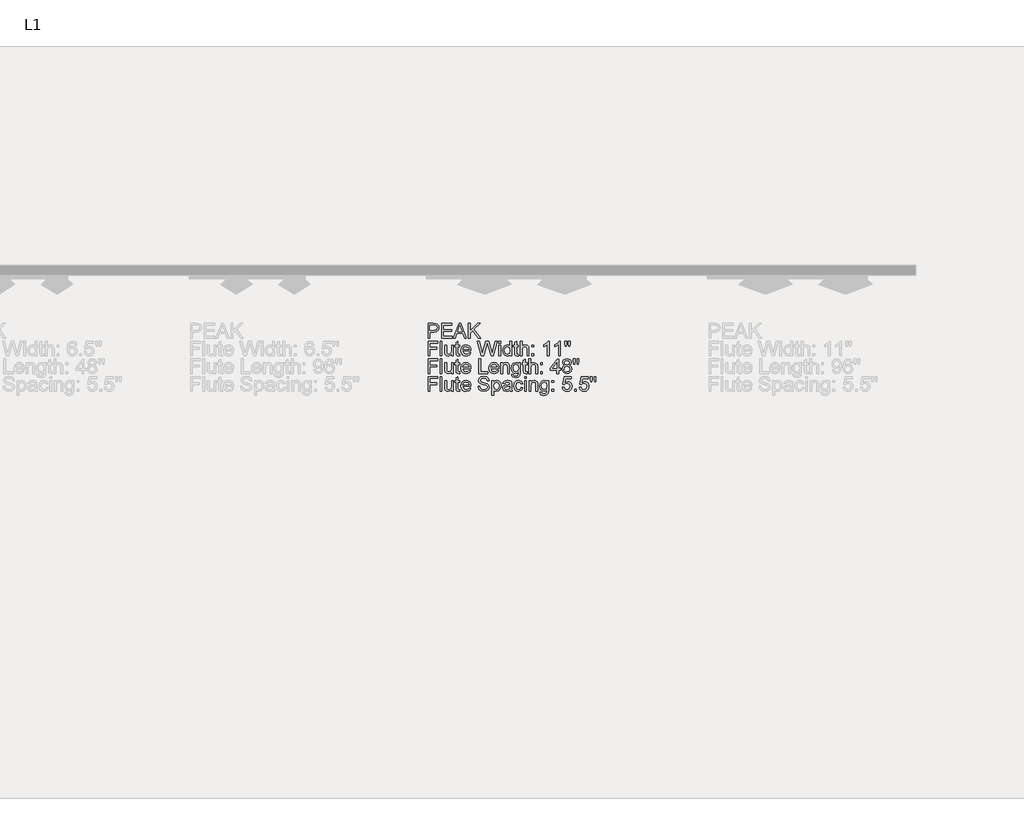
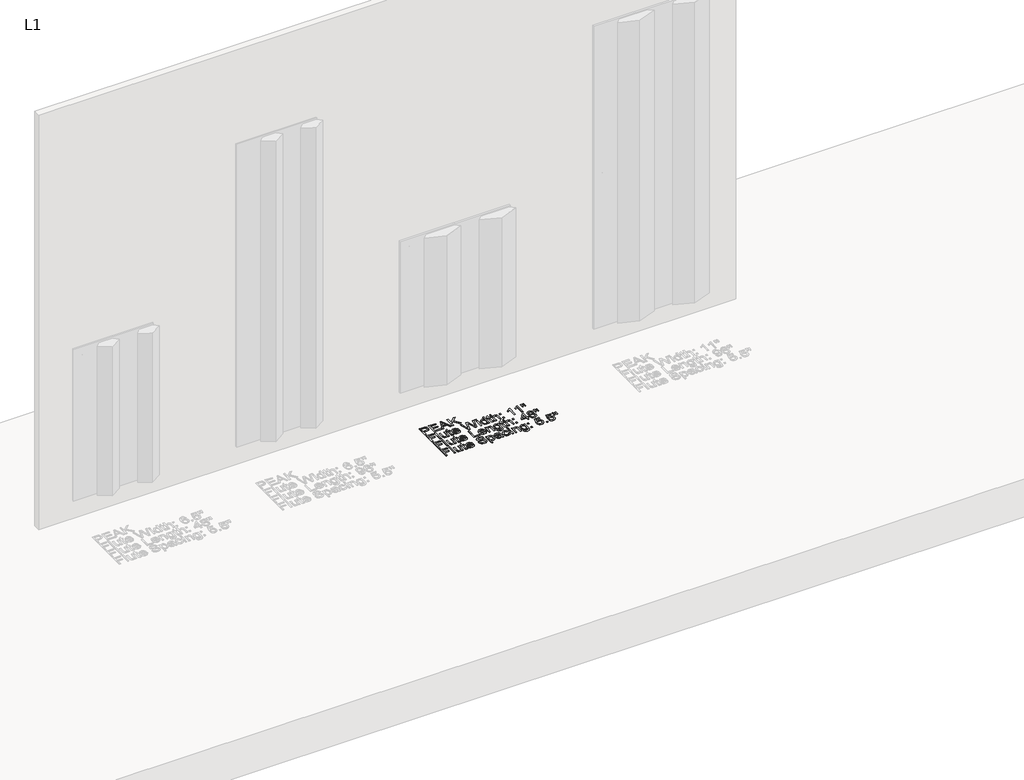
# One storey, part 10 of 17: 1 proxy.
"""IFC4 building model written with IfcOpenShell, lengths in millimetres."""

from ifc_helpers import new_model, si_unit, origin, origin_with_axes, place, context, project, spatial, polyline, outline, extrude, element, save

model = new_model("IFC4")

# Units and contexts
model_context = context("Model", 3, world=origin())
ifc_project = project(units=[si_unit("LENGTHUNIT", "METRE", prefix="MILLI")], contexts=[model_context])

# Site, building, storey
site = spatial("IfcSite", under=ifc_project)
building = spatial("IfcBuilding", under=site)
storey = spatial("IfcBuildingStorey", under=building, Name="L1", Elevation=0.0)

# Proxy
placement = place(None, origin())
element("IfcBuildingElementProxy", 1, Name="3\" Arial", ObjectType="3\" Arial", at=placement, inside=storey, context=model_context, shape_type="SweptSolid", body=[
    extrude(outline(polyline([(10073.1224056, -355.6), (10073.1224056, -279.0522917), (10101.4914049, -279.0522917), (10112.928709, -279.7811395), (10122.2261907, -283.3599691), (10128.2532014, -290.7605776), (10130.5331868, -301.198052), (10128.9937295, -310.2198797), (10124.3753573, -317.7372908), (10115.738978, -322.8111928), (10102.1454991, -324.5024935), (10082.6908691, -324.5024935), (10082.6908691, -355.6), (10073.1224056, -355.6)]), holes=[polyline([(10082.6908691, -314.9340299), (10102.7061513, -314.9340299), (10116.7972089, -311.4206097), (10120.9647233, -301.5344433), (10118.507198, -293.6105594), (10112.050354, -289.2748494), (10102.4818904, -288.6207552), (10082.6908691, -288.6207552), (10082.6908691, -314.9340299)])]), origin_with_axes(), (0.0, 0.0, 1.0), 3.175),
    extrude(outline(polyline([(10143.6898242, -355.6), (10143.6898242, -279.0522917), (10198.7084896, -279.0522917), (10198.7084896, -288.6207552), (10153.2582878, -288.6207552), (10153.2582878, -311.3458561), (10196.3163737, -311.3458561), (10196.3163737, -320.9143197), (10153.2582878, -320.9143197), (10153.2582878, -346.0315365), (10199.9045475, -346.0315365), (10199.9045475, -355.6), (10143.6898242, -355.6)])), origin_with_axes(), (0.0, 0.0, 1.0), 3.175),
    extrude(outline(polyline([(10205.3615619, -355.6), (10235.9171046, -279.0522917), (10244.0652494, -279.0522917), (10274.6021037, -355.6), (10264.4916764, -355.6), (10255.7455027, -331.6788411), (10224.1994745, -331.6788411), (10215.4533008, -355.6), (10205.3615619, -355.6)]), holes=[polyline([(10227.7128947, -322.1103776), (10252.2507709, -322.1103776), (10245.3360609, -303.2911534), (10239.9724886, -288.6207552), (10235.2069452, -301.6465737), (10227.7128947, -322.1103776)])]), origin_with_axes(), (0.0, 0.0, 1.0), 3.175),
    extrude(outline(polyline([(10284.8246615, -355.6), (10284.8246615, -279.0522917), (10294.393125, -279.0522917), (10294.393125, -316.5225444), (10333.6387762, -279.0522917), (10347.0196745, -279.0522917), (10314.0533274, -310.5235663), (10348.2157324, -355.6), (10336.5167907, -355.6), (10307.2694363, -316.9897545), (10294.393125, -329.2867253), (10294.393125, -355.6), (10284.8246615, -355.6)])), origin_with_axes(), (0.0, 0.0, 1.0), 3.175),
    extrude(outline(polyline([(10073.1224056, -448.5448112), (10073.1224056, -371.9971029), (10124.5528971, -371.9971029), (10124.5528971, -381.5655664), (10082.6908691, -381.5655664), (10082.6908691, -404.2906673), (10118.5726074, -404.2906673), (10118.5726074, -413.8591309), (10082.6908691, -413.8591309), (10082.6908691, -448.5448112), (10073.1224056, -448.5448112)])), origin_with_axes(), (0.0, 0.0, 1.0), 3.175),
    extrude(outline(polyline([(10136.5134766, -448.5448112), (10136.5134766, -371.9971029), (10146.0819401, -371.9971029), (10146.0819401, -448.5448112), (10136.5134766, -448.5448112)])), origin_with_axes(), (0.0, 0.0, 1.0), 3.175),
    extrude(outline(polyline([(10196.3163737, -448.5448112), (10196.3163737, -438.8829056), (10188.8223232, -447.0263783), (10179.0482872, -449.7408691), (10170.04982, -447.8346518), (10163.8452694, -443.05042), (10160.9952876, -436.0048912), (10160.4346354, -427.1092103), (10160.4346354, -392.3300879), (10170.003099, -392.3300879), (10170.003099, -422.6053046), (10170.5824395, -432.3606522), (10174.3668416, -438.0886484), (10181.4964683, -440.1724056), (10189.4857615, -438.0419274), (10194.7652361, -432.2391775), (10196.3163737, -421.5774423), (10196.3163737, -392.3300879), (10205.8848372, -392.3300879), (10205.8848372, -448.5448112), (10196.3163737, -448.5448112)])), origin_with_axes(), (0.0, 0.0, 1.0), 3.175),
    extrude(outline(polyline([(10239.3744596, -440.5648621), (10240.5705176, -448.8251373), (10233.4128583, -449.7408691), (10225.3955324, -448.1523547), (10221.3962137, -443.9848403), (10220.2375326, -433.1268768), (10220.2375326, -401.8985514), (10213.0611849, -401.8985514), (10213.0611849, -392.3300879), (10220.2375326, -392.3300879), (10220.2375326, -378.6688636), (10229.8059961, -373.0436536), (10229.8059961, -392.3300879), (10239.3744596, -392.3300879), (10239.3744596, -401.8985514), (10229.8059961, -401.8985514), (10229.8059961, -432.8465507), (10230.310583, -437.7802897), (10231.9458185, -439.5276556), (10235.2069452, -440.1724056), (10239.3744596, -440.5648621)])), origin_with_axes(), (0.0, 0.0, 1.0), 3.175),
    extrude(outline(polyline([(10288.3007049, -431.8), (10297.6822843, -432.9960579), (10288.908078, -445.3490939), (10272.5650675, -449.7408691), (10261.338008, -447.846332), (10252.6992927, -442.1627208), (10247.1908852, -433.0591313), (10245.3547494, -420.9046597), (10247.2095736, -408.3413792), (10252.7740463, -398.9457834), (10261.2959591, -393.0869683), (10272.0231038, -391.1340299), (10282.4161932, -393.0822962), (10290.7208533, -398.927095), (10296.1661875, -408.3040024), (10297.9812988, -420.8485945), (10297.9252336, -423.4275944), (10254.9232129, -423.4275944), (10260.4269483, -435.855384), (10272.7519516, -440.1724056), (10282.1335311, -438.1727462), (10288.3007049, -431.8)]), holes=[polyline([(10254.9232129, -413.8591309), (10288.4128353, -413.8591309), (10284.5817122, -405.1877108), (10271.985727, -400.7024935), (10260.2026874, -404.2813231), (10254.9232129, -413.8591309)])]), origin_with_axes(), (0.0, 0.0, 1.0), 3.175),
    extrude(outline(polyline([(10352.34587, -448.5448112), (10331.4709212, -371.9971029), (10341.3383993, -371.9971029), (10353.4484859, -422.3062901), (10357.186167, -437.8363549), (10361.1854857, -424.100377), (10376.3604709, -371.9971029), (10390.5823474, -371.9971029), (10401.6085065, -409.7663701), (10409.8127165, -437.8363549), (10413.4382671, -422.7548118), (10425.6417958, -371.9971029), (10435.5279622, -371.9971029), (10414.6717019, -448.5448112), (10404.4304557, -448.5448112), (10386.0597533, -389.4894503), (10383.4994417, -381.2478635), (10380.6214273, -391.1714068), (10363.8953045, -448.5448112), (10352.34587, -448.5448112)])), origin_with_axes(), (0.0, 0.0, 1.0), 3.175),
    extrude(outline(polyline([(10443.9003678, -381.5655664), (10443.9003678, -371.9971029), (10453.4688314, -371.9971029), (10453.4688314, -381.5655664), (10443.9003678, -381.5655664)])), origin_with_axes(), (0.0, 0.0, 1.0), 3.175),
    extrude(outline(polyline([(10443.9003678, -448.5448112), (10443.9003678, -392.3300879), (10453.4688314, -392.3300879), (10453.4688314, -448.5448112), (10443.9003678, -448.5448112)])), origin_with_axes(), (0.0, 0.0, 1.0), 3.175),
    extrude(outline(polyline([(10502.507207, -448.5448112), (10502.507207, -439.5183114), (10496.1765097, -447.1852297), (10487.4256639, -449.7408691), (10475.5772149, -446.0405649), (10467.2048093, -435.7152209), (10464.2333529, -420.4935148), (10466.9712043, -405.2624644), (10475.1754142, -394.778269), (10487.3882871, -391.1340299), (10496.2092144, -393.7410625), (10502.507207, -400.5156094), (10502.507207, -371.9971029), (10512.0756706, -371.9971029), (10512.0756706, -448.5448112), (10502.507207, -448.5448112)]), holes=[polyline([(10473.8018164, -420.4561379), (10478.118838, -435.2666992), (10488.304019, -440.1724056), (10498.3677252, -435.4909601), (10502.507207, -421.1849858), (10498.2929716, -405.6549209), (10487.9115625, -400.7024935), (10477.838512, -405.4586927), (10473.8018164, -420.4561379)])]), origin_with_axes(), (0.0, 0.0, 1.0), 3.175),
    extrude(outline(polyline([(10546.7613509, -440.5648621), (10547.9574089, -448.8251373), (10540.7997496, -449.7408691), (10532.7824237, -448.1523547), (10528.783105, -443.9848403), (10527.6244238, -433.1268768), (10527.6244238, -401.8985514), (10520.4480762, -401.8985514), (10520.4480762, -392.3300879), (10527.6244238, -392.3300879), (10527.6244238, -378.6688636), (10537.1928874, -373.0436536), (10537.1928874, -392.3300879), (10546.7613509, -392.3300879), (10546.7613509, -401.8985514), (10537.1928874, -401.8985514), (10537.1928874, -432.8465507), (10537.6974743, -437.7802897), (10539.3327098, -439.5276556), (10542.5938365, -440.1724056), (10546.7613509, -440.5648621)])), origin_with_axes(), (0.0, 0.0, 1.0), 3.175),
    extrude(outline(polyline([(10556.3298145, -448.5448112), (10556.3298145, -371.9971029), (10565.898278, -371.9971029), (10565.898278, -400.1418413), (10573.3596238, -393.3859828), (10582.5496472, -391.1340299), (10593.2954802, -393.5915553), (10599.8177337, -400.3847906), (10601.7800163, -412.9620874), (10601.7800163, -448.5448112), (10592.2115527, -448.5448112), (10592.2115527, -413.9525729), (10589.1653427, -403.860834), (10580.5312994, -400.7024935), (10572.6915133, -402.8329717), (10567.4587598, -408.607689), (10565.898278, -418.6807394), (10565.898278, -448.5448112), (10556.3298145, -448.5448112)])), origin_with_axes(), (0.0, 0.0, 1.0), 3.175),
    extrude(outline(polyline([(10617.3287695, -401.8985514), (10617.3287695, -392.3300879), (10626.8972331, -392.3300879), (10626.8972331, -401.8985514), (10617.3287695, -401.8985514)])), origin_with_axes(), (0.0, 0.0, 1.0), 3.175),
    extrude(outline(polyline([(10617.3287695, -448.5448112), (10617.3287695, -438.9763477), (10626.8972331, -438.9763477), (10626.8972331, -448.5448112), (10617.3287695, -448.5448112)])), origin_with_axes(), (0.0, 0.0, 1.0), 3.175),
    extrude(outline(polyline([(10708.2291732, -448.5448112), (10698.6607096, -448.5448112), (10698.6607096, -388.8914213), (10689.596833, -395.3482654), (10679.5237826, -400.1792181), (10679.5237826, -391.1340299), (10693.5494308, -382.1822838), (10702.0619994, -371.9971029), (10708.2291732, -371.9971029), (10708.2291732, -448.5448112)])), origin_with_axes(), (0.0, 0.0, 1.0), 3.175),
    extrude(outline(polyline([(10766.8360124, -448.5448112), (10757.2675488, -448.5448112), (10757.2675488, -388.8914213), (10748.2036722, -395.3482654), (10738.1306218, -400.1792181), (10738.1306218, -391.1340299), (10752.15627, -382.1822838), (10760.6688386, -371.9971029), (10766.8360124, -371.9971029), (10766.8360124, -448.5448112)])), origin_with_axes(), (0.0, 0.0, 1.0), 3.175),
    extrude(outline(polyline([(10791.897164, -399.5064355), (10789.5611133, -384.7239069), (10789.5611133, -371.9971029), (10799.1295768, -371.9971029), (10799.1295768, -384.7239069), (10797.0364754, -399.5064355), (10791.897164, -399.5064355)])), origin_with_axes(), (0.0, 0.0, 1.0), 3.175),
    extrude(outline(polyline([(10810.9780258, -399.5064355), (10808.6980404, -384.7239069), (10808.6980404, -371.9971029), (10818.2665039, -371.9971029), (10818.2665039, -384.7239069), (10816.0238953, -399.5064355), (10810.9780258, -399.5064355)])), origin_with_axes(), (0.0, 0.0, 1.0), 3.175),
    extrude(outline(polyline([(10073.1224056, -541.4896224), (10073.1224056, -464.9419141), (10124.5528971, -464.9419141), (10124.5528971, -474.5103776), (10082.6908691, -474.5103776), (10082.6908691, -497.2354785), (10118.5726074, -497.2354785), (10118.5726074, -506.8039421), (10082.6908691, -506.8039421), (10082.6908691, -541.4896224), (10073.1224056, -541.4896224)])), origin_with_axes(), (0.0, 0.0, 1.0), 3.175),
    extrude(outline(polyline([(10136.5134766, -541.4896224), (10136.5134766, -464.9419141), (10146.0819401, -464.9419141), (10146.0819401, -541.4896224), (10136.5134766, -541.4896224)])), origin_with_axes(), (0.0, 0.0, 1.0), 3.175),
    extrude(outline(polyline([(10196.3163737, -541.4896224), (10196.3163737, -531.8277168), (10188.8223232, -539.9711895), (10179.0482872, -542.6856803), (10170.04982, -540.779463), (10163.8452694, -535.9952312), (10160.9952876, -528.9497024), (10160.4346354, -520.0540215), (10160.4346354, -485.2748991), (10170.003099, -485.2748991), (10170.003099, -515.5501158), (10170.5824395, -525.3054634), (10174.3668416, -531.0334596), (10181.4964683, -533.1172168), (10189.4857615, -530.9867386), (10194.7652361, -525.1839887), (10196.3163737, -514.5222535), (10196.3163737, -485.2748991), (10205.8848372, -485.2748991), (10205.8848372, -541.4896224), (10196.3163737, -541.4896224)])), origin_with_axes(), (0.0, 0.0, 1.0), 3.175),
    extrude(outline(polyline([(10239.3744596, -533.5096733), (10240.5705176, -541.7699485), (10233.4128583, -542.6856803), (10225.3955324, -541.0971659), (10221.3962137, -536.9296515), (10220.2375326, -526.071688), (10220.2375326, -494.8433626), (10213.0611849, -494.8433626), (10213.0611849, -485.2748991), (10220.2375326, -485.2748991), (10220.2375326, -471.6136748), (10229.8059961, -465.9884648), (10229.8059961, -485.2748991), (10239.3744596, -485.2748991), (10239.3744596, -494.8433626), (10229.8059961, -494.8433626), (10229.8059961, -525.7913619), (10230.310583, -530.7251009), (10231.9458185, -532.4724668), (10235.2069452, -533.1172168), (10239.3744596, -533.5096733)])), origin_with_axes(), (0.0, 0.0, 1.0), 3.175),
    extrude(outline(polyline([(10288.3007049, -524.7448112), (10297.6822843, -525.9408691), (10288.908078, -538.2939051), (10272.5650675, -542.6856803), (10261.338008, -540.7911432), (10252.6992927, -535.107532), (10247.1908852, -526.0039425), (10245.3547494, -513.8494709), (10247.2095736, -501.2861904), (10252.7740463, -491.8905946), (10261.2959591, -486.0317795), (10272.0231038, -484.0788411), (10282.4161932, -486.0271074), (10290.7208533, -491.8719062), (10296.1661875, -501.2488136), (10297.9812988, -513.7934057), (10297.9252336, -516.3724056), (10254.9232129, -516.3724056), (10260.4269483, -528.8001952), (10272.7519516, -533.1172168), (10282.1335311, -531.1175574), (10288.3007049, -524.7448112)]), holes=[polyline([(10254.9232129, -506.8039421), (10288.4128353, -506.8039421), (10284.5817122, -498.132522), (10271.985727, -493.6473047), (10260.2026874, -497.2261343), (10254.9232129, -506.8039421)])]), origin_with_axes(), (0.0, 0.0, 1.0), 3.175),
    extrude(outline(polyline([(10338.6472689, -541.4896224), (10338.6472689, -464.9419141), (10348.2157324, -464.9419141), (10348.2157324, -531.9211589), (10386.4895866, -531.9211589), (10386.4895866, -541.4896224), (10338.6472689, -541.4896224)])), origin_with_axes(), (0.0, 0.0, 1.0), 3.175),
    extrude(outline(polyline([(10435.4158318, -524.7448112), (10444.7974113, -525.9408691), (10436.023205, -538.2939051), (10419.6801945, -542.6856803), (10408.453135, -540.7911432), (10399.8144196, -535.107532), (10394.3060121, -526.0039425), (10392.4698763, -513.8494709), (10394.3247005, -501.2861904), (10399.8891732, -491.8905946), (10408.4110861, -486.0317795), (10419.1382307, -484.0788411), (10429.5313202, -486.0271074), (10437.8359803, -491.8719062), (10443.2813144, -501.2488136), (10445.0964258, -513.7934057), (10445.0403606, -516.3724056), (10402.0383398, -516.3724056), (10407.5420752, -528.8001952), (10419.8670786, -533.1172168), (10429.248658, -531.1175574), (10435.4158318, -524.7448112)]), holes=[polyline([(10402.0383398, -506.8039421), (10435.5279622, -506.8039421), (10431.6968391, -498.132522), (10419.1008539, -493.6473047), (10407.3178144, -497.2261343), (10402.0383398, -506.8039421)])]), origin_with_axes(), (0.0, 0.0, 1.0), 3.175),
    extrude(outline(polyline([(10454.6648893, -541.4896224), (10454.6648893, -485.2748991), (10464.2333529, -485.2748991), (10464.2333529, -493.1240293), (10471.5498636, -486.3401382), (10481.5388162, -484.0788411), (10490.5746602, -485.9009607), (10496.741834, -490.6851924), (10499.6105042, -497.7213771), (10500.1150911, -506.9721377), (10500.1150911, -541.4896224), (10490.5466276, -541.4896224), (10490.5466276, -508.2616377), (10489.4440117, -499.79579), (10485.5474792, -495.319917), (10478.9785047, -493.6473047), (10468.5970955, -497.4036742), (10464.2333529, -511.6629274), (10464.2333529, -541.4896224), (10454.6648893, -541.4896224)])), origin_with_axes(), (0.0, 0.0, 1.0), 3.175),
    extrude(outline(polyline([(10510.8796126, -546.2738542), (10520.4480762, -547.4699121), (10523.5503515, -552.5157816), (10532.8384889, -554.6462598), (10542.6312133, -552.2354555), (10547.3033147, -545.4702527), (10547.9574089, -534.3132747), (10541.2202387, -539.6955355), (10533.0066846, -541.4896224), (10523.1415426, -539.4011931), (10515.785319, -533.1359052), (10511.2089958, -523.950554), (10509.6835547, -513.1019347), (10512.4214061, -498.272685), (10520.3452899, -487.7791454), (10532.5394744, -484.0788411), (10541.0754036, -486.1719425), (10547.9574089, -492.4512467), (10547.9574089, -485.2748991), (10557.5258724, -485.2748991), (10557.5258724, -533.8086878), (10554.9094957, -552.3943069), (10546.6211879, -561.0376944), (10532.6516049, -564.2147233), (10516.7384277, -559.7388502), (10512.2415302, -554.1346647), (10510.8796126, -546.2738542)]), holes=[polyline([(10519.2520182, -512.4478405), (10523.3354348, -527.2584017), (10533.5860251, -531.9211589), (10543.8179271, -527.2864343), (10547.9574089, -512.7281666), (10543.6964524, -498.4595691), (10533.4365179, -493.6473047), (10523.3915, -498.3848154), (10519.2520182, -512.4478405)])]), origin_with_axes(), (0.0, 0.0, 1.0), 3.175),
    extrude(outline(polyline([(10592.2115527, -533.5096733), (10593.4076107, -541.7699485), (10586.2499514, -542.6856803), (10578.2326255, -541.0971659), (10574.2333068, -536.9296515), (10573.0746257, -526.071688), (10573.0746257, -494.8433626), (10565.898278, -494.8433626), (10565.898278, -485.2748991), (10573.0746257, -485.2748991), (10573.0746257, -471.6136748), (10582.6430892, -465.9884648), (10582.6430892, -485.2748991), (10592.2115527, -485.2748991), (10592.2115527, -494.8433626), (10582.6430892, -494.8433626), (10582.6430892, -525.7913619), (10583.1476761, -530.7251009), (10584.7829116, -532.4724668), (10588.0440383, -533.1172168), (10592.2115527, -533.5096733)])), origin_with_axes(), (0.0, 0.0, 1.0), 3.175),
    extrude(outline(polyline([(10601.7800163, -541.4896224), (10601.7800163, -464.9419141), (10611.3484798, -464.9419141), (10611.3484798, -493.0866525), (10618.8098257, -486.330794), (10627.999849, -484.0788411), (10638.7456821, -486.5363664), (10645.2679355, -493.3296018), (10647.2302181, -505.9068986), (10647.2302181, -541.4896224), (10637.6617546, -541.4896224), (10637.6617546, -506.8973841), (10634.6155445, -496.8056452), (10625.9815012, -493.6473047), (10618.1417152, -495.7777829), (10612.9089617, -501.5525002), (10611.3484798, -511.6255506), (10611.3484798, -541.4896224), (10601.7800163, -541.4896224)])), origin_with_axes(), (0.0, 0.0, 1.0), 3.175),
    extrude(outline(polyline([(10662.7789714, -541.4896224), (10662.7789714, -531.9211589), (10672.3474349, -531.9211589), (10672.3474349, -541.4896224), (10662.7789714, -541.4896224)])), origin_with_axes(), (0.0, 0.0, 1.0), 3.175),
    extrude(outline(polyline([(10662.7789714, -494.8433626), (10662.7789714, -485.2748991), (10672.3474349, -485.2748991), (10672.3474349, -494.8433626), (10662.7789714, -494.8433626)])), origin_with_axes(), (0.0, 0.0, 1.0), 3.175),
    extrude(outline(polyline([(10748.8951432, -541.4896224), (10748.8951432, -523.5487533), (10714.2094629, -523.5487533), (10714.2094629, -513.9802897), (10751.2872591, -466.137972), (10758.4636068, -466.137972), (10758.4636068, -513.9802897), (10768.0320703, -513.9802897), (10768.0320703, -523.5487533), (10758.4636068, -523.5487533), (10758.4636068, -541.4896224), (10748.8951432, -541.4896224)]), holes=[polyline([(10748.8951432, -513.9802897), (10748.8951432, -484.4152324), (10725.9831583, -513.9802897), (10748.8951432, -513.9802897)])]), origin_with_axes(), (0.0, 0.0, 1.0), 3.175),
    extrude(outline(polyline([(10790.3460263, -499.3285799), (10781.6278852, -493.385667), (10778.7965918, -484.1349064), (10780.3383852, -476.6548721), (10784.9637656, -470.473682), (10792.1541295, -466.3248561), (10801.3908739, -464.9419141), (10810.6836834, -466.3575608), (10817.9674894, -470.6045009), (10822.6769676, -476.8838051), (10824.2467936, -484.396544), (10821.452877, -493.4136996), (10812.9776852, -499.3285799), (10823.1535219, -506.8319747), (10826.6389095, -519.2130432), (10824.910232, -528.3610176), (10819.7241995, -535.9204776), (10811.7162178, -540.9943797), (10801.5216927, -542.6856803), (10791.3271676, -540.9873715), (10783.3191859, -535.892445), (10778.1331534, -528.2605675), (10776.4044759, -518.9514055), (10780.0300266, -506.2806667), (10790.3460263, -499.3285799)]), holes=[polyline([(10788.3650553, -484.4152324), (10791.7570009, -491.9279714), (10801.6338231, -494.8433626), (10811.3144171, -491.9466598), (10814.6783301, -484.8450658), (10811.2022867, -477.4911783), (10801.5216927, -474.5103776), (10791.8130661, -477.4257688), (10788.3650553, -484.4152324)]), polyline([(10785.9729395, -518.6150142), (10787.5707981, -525.8193945), (10793.2240407, -531.2109995), (10801.5964463, -533.1172168), (10812.9963736, -529.1085538), (10817.070446, -518.9140287), (10812.8655548, -508.5232753), (10801.2787434, -504.4118262), (10790.0189792, -508.4672101), (10785.9729395, -518.6150142)])]), origin_with_axes(), (0.0, 0.0, 1.0), 3.175),
    extrude(outline(polyline([(10837.3473658, -492.4512467), (10835.0113151, -477.6687181), (10835.0113151, -464.9419141), (10844.5797787, -464.9419141), (10844.5797787, -477.6687181), (10842.4866773, -492.4512467), (10837.3473658, -492.4512467)])), origin_with_axes(), (0.0, 0.0, 1.0), 3.175),
    extrude(outline(polyline([(10856.4282276, -492.4512467), (10854.1482422, -477.6687181), (10854.1482422, -464.9419141), (10863.7167057, -464.9419141), (10863.7167057, -477.6687181), (10861.4740971, -492.4512467), (10856.4282276, -492.4512467)])), origin_with_axes(), (0.0, 0.0, 1.0), 3.175),
    extrude(outline(polyline([(10073.1224056, -634.4344336), (10073.1224056, -557.8867253), (10124.5528971, -557.8867253), (10124.5528971, -567.4551888), (10082.6908691, -567.4551888), (10082.6908691, -590.1802897), (10118.5726074, -590.1802897), (10118.5726074, -599.7487533), (10082.6908691, -599.7487533), (10082.6908691, -634.4344336), (10073.1224056, -634.4344336)])), origin_with_axes(), (0.0, 0.0, 1.0), 3.175),
    extrude(outline(polyline([(10136.5134766, -634.4344336), (10136.5134766, -557.8867253), (10146.0819401, -557.8867253), (10146.0819401, -634.4344336), (10136.5134766, -634.4344336)])), origin_with_axes(), (0.0, 0.0, 1.0), 3.175),
    extrude(outline(polyline([(10196.3163737, -634.4344336), (10196.3163737, -624.772528), (10188.8223232, -632.9160007), (10179.0482872, -635.6304915), (10170.04982, -633.7242742), (10163.8452694, -628.9400424), (10160.9952876, -621.8945136), (10160.4346354, -612.9988327), (10160.4346354, -578.2197103), (10170.003099, -578.2197103), (10170.003099, -608.494927), (10170.5824395, -618.2502746), (10174.3668416, -623.9782708), (10181.4964683, -626.062028), (10189.4857615, -623.9315498), (10194.7652361, -618.1287999), (10196.3163737, -607.4670647), (10196.3163737, -578.2197103), (10205.8848372, -578.2197103), (10205.8848372, -634.4344336), (10196.3163737, -634.4344336)])), origin_with_axes(), (0.0, 0.0, 1.0), 3.175),
    extrude(outline(polyline([(10239.3744596, -626.4544845), (10240.5705176, -634.7147597), (10233.4128583, -635.6304915), (10225.3955324, -634.0419771), (10221.3962137, -629.8744627), (10220.2375326, -619.0164992), (10220.2375326, -587.7881738), (10213.0611849, -587.7881738), (10213.0611849, -578.2197103), (10220.2375326, -578.2197103), (10220.2375326, -564.558486), (10229.8059961, -558.933276), (10229.8059961, -578.2197103), (10239.3744596, -578.2197103), (10239.3744596, -587.7881738), (10229.8059961, -587.7881738), (10229.8059961, -618.7361731), (10230.310583, -623.6699121), (10231.9458185, -625.417278), (10235.2069452, -626.062028), (10239.3744596, -626.4544845)])), origin_with_axes(), (0.0, 0.0, 1.0), 3.175),
    extrude(outline(polyline([(10288.3007049, -617.6896224), (10297.6822843, -618.8856803), (10288.908078, -631.2387163), (10272.5650675, -635.6304915), (10261.338008, -633.7359544), (10252.6992927, -628.0523432), (10247.1908852, -618.9487537), (10245.3547494, -606.7942821), (10247.2095736, -594.2310016), (10252.7740463, -584.8354058), (10261.2959591, -578.9765907), (10272.0231038, -577.0236523), (10282.4161932, -578.9719186), (10290.7208533, -584.8167174), (10296.1661875, -594.1936248), (10297.9812988, -606.7382169), (10297.9252336, -609.3172168), (10254.9232129, -609.3172168), (10260.4269483, -621.7450064), (10272.7519516, -626.062028), (10282.1335311, -624.0623686), (10288.3007049, -617.6896224)]), holes=[polyline([(10254.9232129, -599.7487533), (10288.4128353, -599.7487533), (10284.5817122, -591.0773332), (10271.985727, -586.5921159), (10260.2026874, -590.1709455), (10254.9232129, -599.7487533)])]), origin_with_axes(), (0.0, 0.0, 1.0), 3.175),
    extrude(outline(polyline([(10335.0590951, -608.1211589), (10344.6275586, -608.1211589), (10347.7111455, -617.6989666), (10355.2425728, -623.7540099), (10366.7172537, -626.062028), (10376.7155506, -624.3146621), (10383.1723946, -619.5117419), (10385.2935286, -613.0922747), (10383.7050142, -607.1213292), (10377.2014491, -602.7762749), (10363.2692429, -599.1226917), (10348.2717976, -594.4038693), (10340.1329971, -587.2835869), (10337.4512109, -577.7711886), (10340.7684029, -566.9412577), (10350.4583411, -559.2976999), (10364.6428407, -556.6906673), (10379.7804491, -559.4191745), (10389.872188, -567.4365004), (10393.6659342, -579.4157682), (10384.0974707, -579.4157682), (10378.6778332, -569.585667), (10365.0166088, -566.2591309), (10351.3180077, -569.5482902), (10347.0196745, -577.4908625), (10350.0658846, -584.1252464), (10365.6893914, -589.4701303), (10382.6210867, -594.2730505), (10391.8811915, -602.0287387), (10394.8619922, -612.8493254), (10391.4326698, -624.2959737), (10381.5651918, -632.6496909), (10367.0910218, -635.6304915), (10350.0004751, -632.4160858), (10339.1892326, -622.7354918), (10335.0590951, -608.1211589)])), origin_with_axes(), (0.0, 0.0, 1.0), 3.175),
    extrude(outline(polyline([(10408.0186296, -655.9634766), (10408.0186296, -578.2197103), (10417.5870931, -578.2197103), (10417.5870931, -587.6012898), (10424.2027886, -579.6680617), (10433.1358464, -577.0236523), (10445.2646214, -580.7239566), (10453.1885053, -591.1520868), (10455.8609473, -605.8972386), (10452.8427698, -621.3992709), (10444.0779077, -631.9582199), (10431.9771652, -635.6304915), (10423.6514806, -633.1729662), (10417.5870931, -626.9590715), (10417.5870931, -655.9634766), (10408.0186296, -655.9634766)]), holes=[polyline([(10417.5870931, -606.7755937), (10421.7265749, -621.3525498), (10431.7715928, -626.062028), (10442.0221831, -621.1843542), (10446.2924837, -606.0654343), (10442.1249693, -591.4511013), (10432.1640493, -586.5921159), (10422.006901, -591.75946), (10417.5870931, -606.7755937)])]), origin_with_axes(), (0.0, 0.0, 1.0), 3.175),
    extrude(outline(polyline([(10502.507207, -627.2580859), (10493.2284138, -633.7429626), (10482.9778234, -635.6304915), (10469.0829941, -631.089209), (10464.2333529, -619.4837093), (10466.0648166, -611.9149051), (10470.877081, -606.420514), (10477.5768743, -603.2808619), (10485.8558379, -601.8418547), (10502.4511418, -598.5526953), (10502.507207, -596.4222171), (10499.8721419, -589.3579999), (10489.2945044, -586.5921159), (10479.6139105, -588.4329238), (10474.9978744, -594.9645215), (10465.4294108, -593.7684635), (10469.5688926, -584.4242609), (10477.9039214, -578.9485581), (10490.5279392, -577.0236523), (10502.1240947, -578.7242972), (10508.6743808, -582.9945979), (10511.6084604, -589.4888187), (10512.0756706, -597.8612243), (10512.0756706, -609.7657385), (10512.5615691, -626.3890751), (10514.4677865, -634.4344336), (10504.8993229, -634.4344336), (10502.507207, -627.2580859)]), holes=[polyline([(10502.507207, -608.1211589), (10487.0705842, -611.0552385), (10478.8383417, -612.6063761), (10475.1100048, -615.1293109), (10473.8018164, -618.8109267), (10476.6517982, -623.987615), (10485.0148596, -626.062028), (10494.6954536, -623.7726983), (10500.937381, -618.2315862), (10502.4511418, -610.8309776), (10502.507207, -608.1211589)])]), origin_with_axes(), (0.0, 0.0, 1.0), 3.175),
    extrude(outline(polyline([(10561.1140462, -614.1014486), (10570.6825098, -615.2975065), (10563.0015752, -630.2388866), (10547.82659, -635.6304915), (10537.6484173, -633.7499707), (10529.6894926, -628.1084084), (10524.5525172, -618.9534258), (10522.8401921, -606.5326444), (10525.7649275, -590.6381556), (10534.6792969, -580.4249421), (10547.6957712, -577.0236523), (10562.2446948, -581.6957537), (10569.4864518, -594.9645215), (10559.9179883, -596.1605794), (10555.479492, -588.993576), (10547.7705248, -586.5921159), (10536.6789562, -591.3202824), (10532.4086556, -606.2710067), (10536.5855142, -621.361894), (10547.5088871, -626.062028), (10556.5260427, -623.1279484), (10561.1140462, -614.1014486)])), origin_with_axes(), (0.0, 0.0, 1.0), 3.175),
    extrude(outline(polyline([(10579.0549154, -567.4551888), (10579.0549154, -557.8867253), (10588.6233789, -557.8867253), (10588.6233789, -567.4551888), (10579.0549154, -567.4551888)])), origin_with_axes(), (0.0, 0.0, 1.0), 3.175),
    extrude(outline(polyline([(10579.0549154, -634.4344336), (10579.0549154, -578.2197103), (10588.6233789, -578.2197103), (10588.6233789, -634.4344336), (10579.0549154, -634.4344336)])), origin_with_axes(), (0.0, 0.0, 1.0), 3.175),
    extrude(outline(polyline([(10602.9760742, -634.4344336), (10602.9760742, -578.2197103), (10612.5445378, -578.2197103), (10612.5445378, -586.0688405), (10619.8610485, -579.2849494), (10629.8500011, -577.0236523), (10638.8858451, -578.8457719), (10645.0530189, -583.6300036), (10647.9216891, -590.6661883), (10648.426276, -599.9169489), (10648.426276, -634.4344336), (10638.8578125, -634.4344336), (10638.8578125, -601.2064489), (10637.7551966, -592.7406012), (10633.8586641, -588.2647282), (10627.2896896, -586.5921159), (10616.9082804, -590.3484854), (10612.5445378, -604.6077386), (10612.5445378, -634.4344336), (10602.9760742, -634.4344336)])), origin_with_axes(), (0.0, 0.0, 1.0), 3.175),
    extrude(outline(polyline([(10659.1907975, -639.2186654), (10668.7592611, -640.4147233), (10671.8615364, -645.4605928), (10681.1496738, -647.591071), (10690.9423982, -645.1802667), (10695.6144996, -638.4150639), (10696.2685938, -627.2580859), (10689.5314236, -632.6403467), (10681.3178695, -634.4344336), (10671.4527275, -632.3460043), (10664.0965039, -626.0807164), (10659.5201807, -616.8953652), (10657.9947396, -606.0467459), (10660.732591, -591.2174962), (10668.6564748, -580.7239566), (10680.8506593, -577.0236523), (10689.3865885, -579.1167537), (10696.2685938, -585.3960579), (10696.2685938, -578.2197103), (10705.8370573, -578.2197103), (10705.8370573, -626.753499), (10703.2206805, -645.3391181), (10694.9323728, -653.9825056), (10680.9627898, -657.1595345), (10665.0496126, -652.6836614), (10660.5527151, -647.0794759), (10659.1907975, -639.2186654)]), holes=[polyline([(10667.5632031, -605.3926517), (10671.6466197, -620.2032129), (10681.89721, -624.8659701), (10692.129112, -620.2312455), (10696.2685938, -605.6729778), (10692.0076373, -591.4043803), (10681.7477028, -586.5921159), (10671.7026849, -591.3296266), (10667.5632031, -605.3926517)])]), origin_with_axes(), (0.0, 0.0, 1.0), 3.175),
    extrude(outline(polyline([(10722.5818685, -587.7881738), (10722.5818685, -578.2197103), (10732.150332, -578.2197103), (10732.150332, -587.7881738), (10722.5818685, -587.7881738)])), origin_with_axes(), (0.0, 0.0, 1.0), 3.175),
    extrude(outline(polyline([(10722.5818685, -634.4344336), (10722.5818685, -624.8659701), (10732.150332, -624.8659701), (10732.150332, -634.4344336), (10722.5818685, -634.4344336)])), origin_with_axes(), (0.0, 0.0, 1.0), 3.175),
    extrude(outline(polyline([(10777.6005339, -614.1014486), (10787.1689974, -612.9053906), (10791.990606, -622.7635245), (10801.9889028, -626.062028), (10813.9868591, -621.4740245), (10818.2665039, -609.2985284), (10814.257841, -597.9359779), (10802.1384101, -593.7684635), (10793.7379719, -595.4317316), (10788.3650553, -599.7487533), (10778.7965918, -598.5526953), (10787.1689974, -559.0827832), (10824.2467936, -559.0827832), (10824.2467936, -568.6512467), (10794.9059972, -568.6512467), (10790.794548, -589.731768), (10804.7921637, -584.2), (10813.7345656, -585.9146612), (10821.1632067, -591.0586448), (10826.1670273, -598.8984308), (10827.8349675, -608.7004994), (10826.3352229, -618.268963), (10821.8359893, -626.4544845), (10813.2206345, -633.3364898), (10801.951526, -635.6304915), (10792.5535942, -634.1564436), (10785.0665518, -629.7342996), (10779.9342485, -622.8779909), (10777.6005339, -614.1014486)])), origin_with_axes(), (0.0, 0.0, 1.0), 3.175),
    extrude(outline(polyline([(10840.9916048, -634.4344336), (10840.9916048, -624.8659701), (10850.5600684, -624.8659701), (10850.5600684, -634.4344336), (10840.9916048, -634.4344336)])), origin_with_axes(), (0.0, 0.0, 1.0), 3.175),
    extrude(outline(polyline([(10866.1088216, -614.1014486), (10875.6772852, -612.9053906), (10880.4988937, -622.7635245), (10890.4971906, -626.062028), (10902.4951468, -621.4740245), (10906.7747917, -609.2985284), (10902.7661287, -597.9359779), (10890.6466979, -593.7684635), (10882.2462596, -595.4317316), (10876.8733431, -599.7487533), (10867.3048796, -598.5526953), (10875.6772852, -559.0827832), (10912.7550814, -559.0827832), (10912.7550814, -568.6512467), (10883.414285, -568.6512467), (10879.3028358, -589.731768), (10893.3004514, -584.2), (10902.2428534, -585.9146612), (10909.6714945, -591.0586448), (10914.675315, -598.8984308), (10916.3432552, -608.7004994), (10914.8435107, -618.268963), (10910.3442771, -626.4544845), (10901.7289222, -633.3364898), (10890.4598138, -635.6304915), (10881.061882, -634.1564436), (10873.5748396, -629.7342996), (10868.4425362, -622.8779909), (10866.1088216, -614.1014486)])), origin_with_axes(), (0.0, 0.0, 1.0), 3.175),
    extrude(outline(polyline([(10927.0517115, -585.3960579), (10924.7156608, -570.6135293), (10924.7156608, -557.8867253), (10934.2841244, -557.8867253), (10934.2841244, -570.6135293), (10932.191023, -585.3960579), (10927.0517115, -585.3960579)])), origin_with_axes(), (0.0, 0.0, 1.0), 3.175),
    extrude(outline(polyline([(10946.1325734, -585.3960579), (10943.8525879, -570.6135293), (10943.8525879, -557.8867253), (10953.4210514, -557.8867253), (10953.4210514, -570.6135293), (10951.1784428, -585.3960579), (10946.1325734, -585.3960579)])), origin_with_axes(), (0.0, 0.0, 1.0), 3.175),
])

save(model, "model.ifc")
